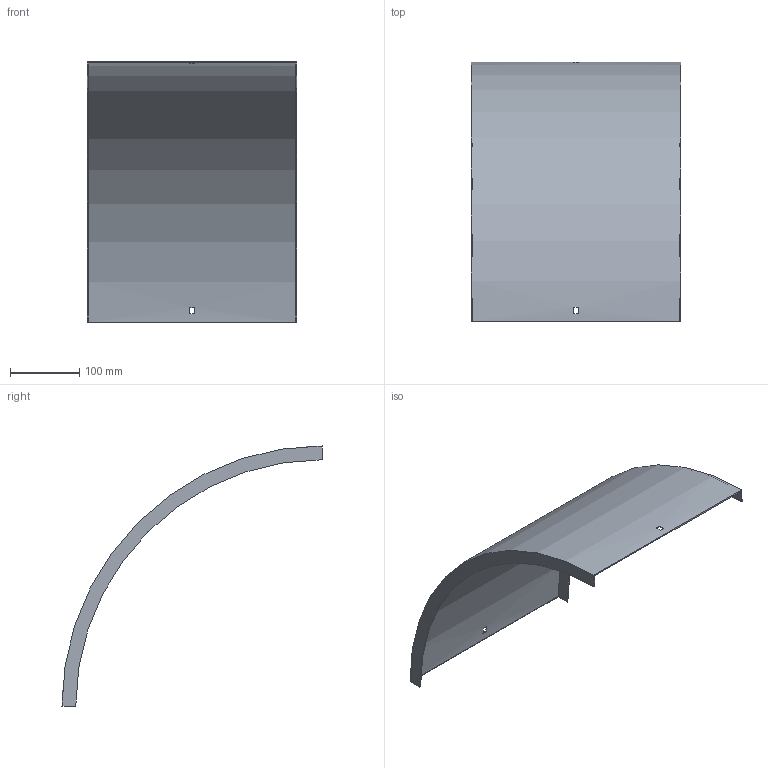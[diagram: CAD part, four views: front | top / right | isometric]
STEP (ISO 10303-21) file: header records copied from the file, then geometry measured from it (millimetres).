
FILE_DESCRIPTION (( 'STEP AP214' ), '1' );
FILE_NAME ('B2_33N3C300.step', '2025-02-21T10:46:28', ( '' ), ( '' ), 'SwSTEP 2.0', 'SolidWorks 2023', '' );
FILE_SCHEMA (( 'AUTOMOTIVE_DESIGN' ));
Length unit declared in the file: millimetre
Products named in the file (1): B2_33N3C300
Bounding box: 303 x 376.5 x 376.5 mm (x, y, z)
Volume: 299968.2 mm3; surface area: 402754.1 mm2
Topology: 1 solids, 1 shells, 18 faces, 48 edges, 32 vertices
Faces by surface type: plane 14, cylinder 4
Entity records: 599 total; most frequent: DIRECTION 102, CARTESIAN_POINT 99, ORIENTED_EDGE 96, EDGE_CURVE 48, AXIS2_PLACEMENT_3D 35, LINE 32, VECTOR 32, VERTEX_POINT 32
